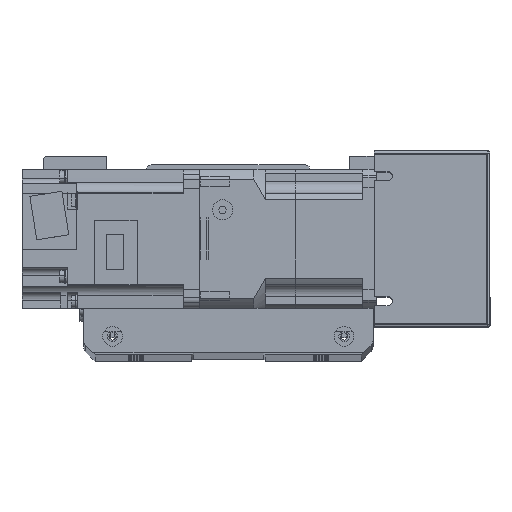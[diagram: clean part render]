
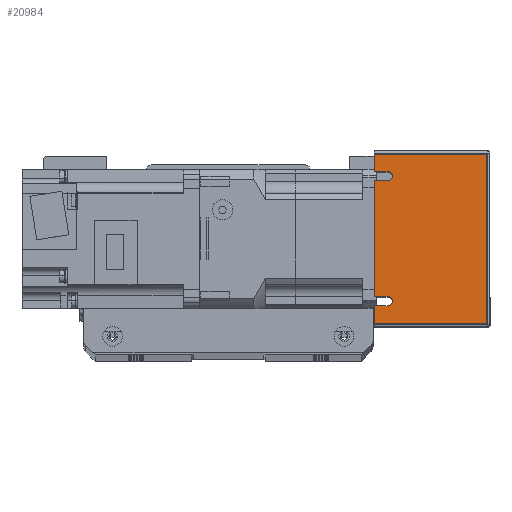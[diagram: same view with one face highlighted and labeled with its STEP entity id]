
A CAD part, top view. The second image highlights one B-rep face of the part: STEP entity #20984.
In plain terms, the highlighted planar face has unit normal (0, 0, 1) as drawn and (-1, 0, 0) by its records, which use the part's own axes.
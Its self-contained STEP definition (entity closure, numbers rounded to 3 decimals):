
#665=PLANE('',#23221);
#1995=LINE('',#35105,#3619);
#2002=LINE('',#35121,#3626);
#2011=LINE('',#35141,#3635);
#2019=LINE('',#35159,#3643);
#2034=LINE('',#35202,#3658);
#2036=LINE('',#35209,#3660);
#2039=LINE('',#35218,#3663);
#2044=LINE('',#35232,#3668);
#2045=LINE('',#35234,#3669);
#2046=LINE('',#35235,#3670);
#3619=VECTOR('',#28596,10.);
#3626=VECTOR('',#28607,10.);
#3635=VECTOR('',#28620,10.);
#3643=VECTOR('',#28632,10.);
#3658=VECTOR('',#28677,10.);
#3660=VECTOR('',#28685,10.);
#3663=VECTOR('',#28694,10.);
#3668=VECTOR('',#28707,10.);
#3669=VECTOR('',#28708,10.);
#3670=VECTOR('',#28709,10.);
#6052=FACE_OUTER_BOUND('',#7704,.T.);
#7704=EDGE_LOOP('',(#18200,#18201,#18202,#18203,#18204,#18205,#18206,#18207,
#18208,#18209,#18210,#18211));
#8866=CIRCLE('',#23200,2.);
#8871=CIRCLE('',#23208,2.);
#10575=VERTEX_POINT('',#35102);
#10576=VERTEX_POINT('',#35104);
#10582=VERTEX_POINT('',#35118);
#10583=VERTEX_POINT('',#35120);
#10591=VERTEX_POINT('',#35138);
#10592=VERTEX_POINT('',#35140);
#10599=VERTEX_POINT('',#35156);
#10600=VERTEX_POINT('',#35158);
#10613=VERTEX_POINT('',#35201);
#10618=VERTEX_POINT('',#35216);
#10623=VERTEX_POINT('',#35231);
#10624=VERTEX_POINT('',#35233);
#13147=EDGE_CURVE('',#10575,#10576,#1995,.T.);
#13154=EDGE_CURVE('',#10582,#10583,#2002,.T.);
#13163=EDGE_CURVE('',#10591,#10592,#2011,.T.);
#13171=EDGE_CURVE('',#10599,#10600,#2019,.T.);
#13178=EDGE_CURVE('',#10583,#10575,#8866,.T.);
#13189=EDGE_CURVE('',#10600,#10591,#8871,.T.);
#13195=EDGE_CURVE('',#10613,#10592,#2034,.T.);
#13199=EDGE_CURVE('',#10599,#10576,#2036,.T.);
#13204=EDGE_CURVE('',#10582,#10618,#2039,.T.);
#13211=EDGE_CURVE('',#10618,#10623,#2044,.T.);
#13212=EDGE_CURVE('',#10623,#10624,#2045,.T.);
#13213=EDGE_CURVE('',#10624,#10613,#2046,.T.);
#18200=ORIENTED_EDGE('',*,*,#13147,.F.);
#18201=ORIENTED_EDGE('',*,*,#13178,.F.);
#18202=ORIENTED_EDGE('',*,*,#13154,.F.);
#18203=ORIENTED_EDGE('',*,*,#13204,.T.);
#18204=ORIENTED_EDGE('',*,*,#13211,.T.);
#18205=ORIENTED_EDGE('',*,*,#13212,.T.);
#18206=ORIENTED_EDGE('',*,*,#13213,.T.);
#18207=ORIENTED_EDGE('',*,*,#13195,.T.);
#18208=ORIENTED_EDGE('',*,*,#13163,.F.);
#18209=ORIENTED_EDGE('',*,*,#13189,.F.);
#18210=ORIENTED_EDGE('',*,*,#13171,.F.);
#18211=ORIENTED_EDGE('',*,*,#13199,.T.);
#20984=ADVANCED_FACE('',(#6052),#665,.F.);
#23200=AXIS2_PLACEMENT_3D('',#35172,#28644,#28645);
#23208=AXIS2_PLACEMENT_3D('',#35190,#28666,#28667);
#23221=AXIS2_PLACEMENT_3D('',#35230,#28705,#28706);
#28596=DIRECTION('',(0.,0.,-1.));
#28607=DIRECTION('',(0.,0.,1.));
#28620=DIRECTION('',(0.,0.,-1.));
#28632=DIRECTION('',(0.,0.,1.));
#28644=DIRECTION('center_axis',(-1.,0.,0.));
#28645=DIRECTION('ref_axis',(0.,0.,-1.));
#28666=DIRECTION('center_axis',(-1.,0.,0.));
#28667=DIRECTION('ref_axis',(0.,0.,-1.));
#28677=DIRECTION('',(0.,-1.,0.));
#28685=DIRECTION('',(0.,-1.,0.));
#28694=DIRECTION('',(0.,-1.,0.));
#28705=DIRECTION('center_axis',(1.,0.,0.));
#28706=DIRECTION('ref_axis',(0.,-1.,0.));
#28707=DIRECTION('',(0.,0.,1.));
#28708=DIRECTION('',(0.,1.,0.));
#28709=DIRECTION('',(0.,0.,-1.));
#35102=CARTESIAN_POINT('',(-91.,-25.,-19.));
#35104=CARTESIAN_POINT('',(-91.,-25.,-25.));
#35105=CARTESIAN_POINT('',(-91.,-25.,-9.5));
#35118=CARTESIAN_POINT('',(-91.,-29.,-25.));
#35120=CARTESIAN_POINT('',(-91.,-29.,-19.));
#35121=CARTESIAN_POINT('',(-91.,-29.,-15.178));
#35138=CARTESIAN_POINT('',(-91.,29.,-19.));
#35140=CARTESIAN_POINT('',(-91.,29.,-25.));
#35141=CARTESIAN_POINT('',(-91.,29.,-9.5));
#35156=CARTESIAN_POINT('',(-91.,25.,-25.));
#35158=CARTESIAN_POINT('',(-91.,25.,-19.));
#35159=CARTESIAN_POINT('',(-91.,25.,-15.178));
#35172=CARTESIAN_POINT('Origin',(-91.,-27.,-19.));
#35190=CARTESIAN_POINT('Origin',(-91.,27.,-19.));
#35201=CARTESIAN_POINT('',(-91.,37.,-25.));
#35202=CARTESIAN_POINT('',(-91.,-38.,-25.));
#35209=CARTESIAN_POINT('',(-91.,-38.,-25.));
#35216=CARTESIAN_POINT('',(-91.,-37.,-25.));
#35218=CARTESIAN_POINT('',(-91.,-38.,-25.));
#35230=CARTESIAN_POINT('Origin',(-91.,38.,0.));
#35231=CARTESIAN_POINT('',(-91.,-37.,24.));
#35232=CARTESIAN_POINT('',(-91.,-37.,0.));
#35233=CARTESIAN_POINT('',(-91.,37.,24.));
#35234=CARTESIAN_POINT('',(-91.,19.,24.));
#35235=CARTESIAN_POINT('',(-91.,37.,0.));
